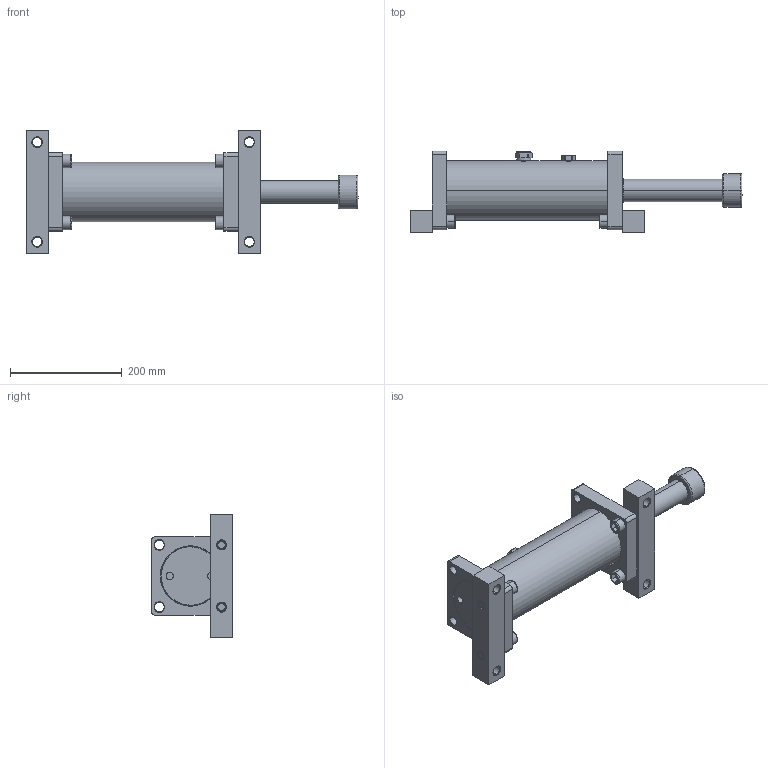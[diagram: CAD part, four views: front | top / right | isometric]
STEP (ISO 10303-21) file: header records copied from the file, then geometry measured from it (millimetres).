
FILE_DESCRIPTION (( 'STEP AP214' ), '1' );
FILE_NAME ('LDD2.0X6.STEP', '2019-01-16T05:52:46', ( 'user' ), ( 'Microsoft' ), 'SwSTEP 2.0', 'SolidWorks 2016', '' );
FILE_SCHEMA (( 'AUTOMOTIVE_DESIGN' ));
Length unit declared in the file: inch
Products named in the file (1): LDD2.0X6
Bounding box: 593 x 145.5 x 220 mm (x, y, z)
Surface area: 354137.2 mm2 (no closed solid volume)
Topology: 0 solids, 25 shells, 271 faces, 704 edges, 468 vertices
Faces by surface type: plane 99, cylinder 84, cone 58, bspline 30
Entity records: 14144 total; most frequent: CARTESIAN_POINT 7571, DIRECTION 1380, ORIENTED_EDGE 1262, EDGE_CURVE 704, AXIS2_PLACEMENT_3D 538, VERTEX_POINT 468, EDGE_LOOP 330, VECTOR 304
